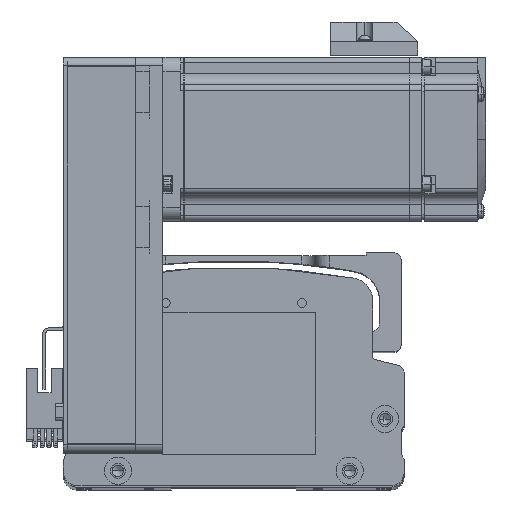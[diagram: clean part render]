
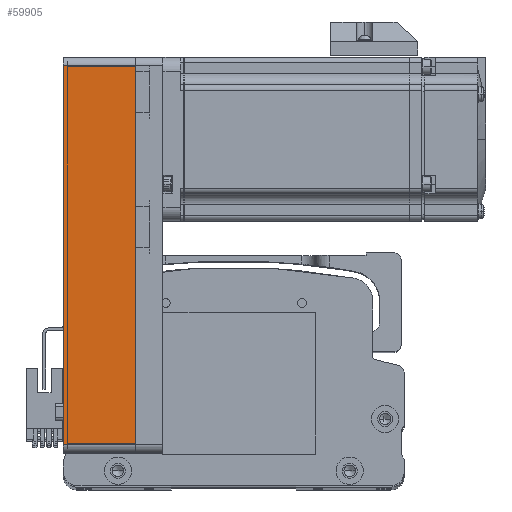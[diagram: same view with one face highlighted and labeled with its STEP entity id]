
A CAD part, top view. The second image highlights one B-rep face of the part: STEP entity #59905.
In plain terms, the highlighted planar face has unit normal (0, 0, 1) as drawn and (0, -1, 0) by its records, which use the part's own axes.
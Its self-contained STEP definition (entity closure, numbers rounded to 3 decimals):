
#2390 = ORIENTED_EDGE ( 'NONE', *, *, #16871, .T. ) ;
#3747 = CARTESIAN_POINT ( 'NONE',  ( 69.5, -30., 26.5 ) ) ;
#4100 = CARTESIAN_POINT ( 'NONE',  ( -69.5, -30., 26.5 ) ) ;
#5000 = ORIENTED_EDGE ( 'NONE', *, *, #45071, .T. ) ;
#6175 = DIRECTION ( 'NONE',  ( -1., 0., 0. ) ) ;
#6307 = CARTESIAN_POINT ( 'NONE',  ( 69.5, -30., 26.5 ) ) ;
#8720 = VECTOR ( 'NONE', #11692, 1000. ) ;
#10193 = VECTOR ( 'NONE', #63017, 1000. ) ;
#11692 = DIRECTION ( 'NONE',  ( 1., 0., 0. ) ) ;
#11937 = VERTEX_POINT ( 'NONE', #3747 ) ;
#12292 = CARTESIAN_POINT ( 'NONE',  ( -69.5, -30., 0. ) ) ;
#14872 = VECTOR ( 'NONE', #38344, 1000. ) ;
#15831 = VERTEX_POINT ( 'NONE', #12292 ) ;
#16871 = EDGE_CURVE ( 'NONE', #15831, #39460, #48317, .T. ) ;
#19071 = EDGE_CURVE ( 'NONE', #35751, #15831, #46784, .T. ) ;
#20812 = DIRECTION ( 'NONE',  ( 0., 0., -1. ) ) ;
#26824 = CARTESIAN_POINT ( 'NONE',  ( -69.5, -30., 26.5 ) ) ;
#27657 = EDGE_CURVE ( 'NONE', #35751, #11937, #75765, .T. ) ;
#34775 = ORIENTED_EDGE ( 'NONE', *, *, #27657, .F. ) ;
#35751 = VERTEX_POINT ( 'NONE', #4100 ) ;
#36795 = LINE ( 'NONE', #6307, #10193 ) ;
#38344 = DIRECTION ( 'NONE',  ( 1., 0., 0. ) ) ;
#39460 = VERTEX_POINT ( 'NONE', #72744 ) ;
#43931 = DIRECTION ( 'NONE',  ( 0., 1., 0. ) ) ;
#44733 = CARTESIAN_POINT ( 'NONE',  ( 72.5, -30., 0. ) ) ;
#45071 = EDGE_CURVE ( 'NONE', #39460, #11937, #36795, .T. ) ;
#46784 = LINE ( 'NONE', #26824, #80322 ) ;
#48317 = LINE ( 'NONE', #44733, #14872 ) ;
#48848 = AXIS2_PLACEMENT_3D ( 'NONE', #81692, #43931, #6175 ) ;
#49959 = PLANE ( 'NONE',  #48848 ) ;
#51919 = EDGE_LOOP ( 'NONE', ( #2390, #5000, #34775, #77655 ) ) ;
#59090 = FACE_OUTER_BOUND ( 'NONE', #51919, .T. ) ;
#59905 = ADVANCED_FACE ( 'NONE', ( #59090 ), #49959, .F. ) ;
#62033 = CARTESIAN_POINT ( 'NONE',  ( 72.5, -30., 26.5 ) ) ;
#63017 = DIRECTION ( 'NONE',  ( 0., 0., 1. ) ) ;
#72744 = CARTESIAN_POINT ( 'NONE',  ( 69.5, -30., 0. ) ) ;
#75765 = LINE ( 'NONE', #62033, #8720 ) ;
#77655 = ORIENTED_EDGE ( 'NONE', *, *, #19071, .T. ) ;
#80322 = VECTOR ( 'NONE', #20812, 1000. ) ;
#81692 = CARTESIAN_POINT ( 'NONE',  ( 72.5, -30., 26.5 ) ) ;
